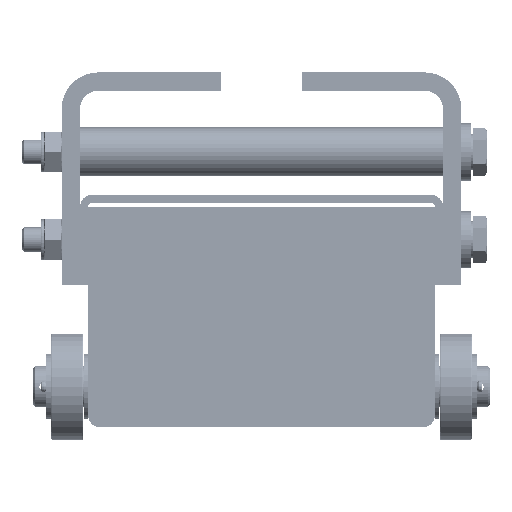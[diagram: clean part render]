
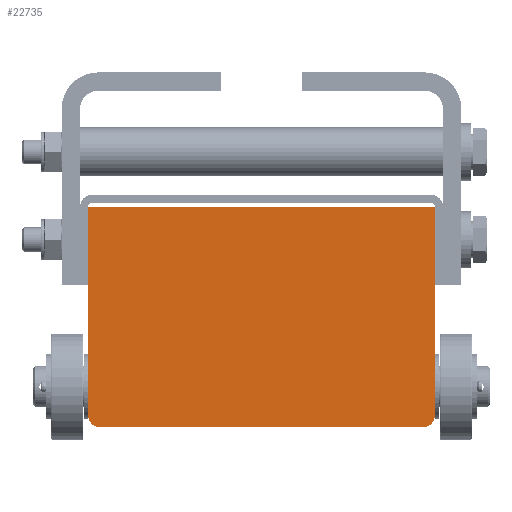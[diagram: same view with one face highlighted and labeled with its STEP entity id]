
A CAD part, front view. The second image highlights one B-rep face of the part: STEP entity #22735.
In plain terms, the highlighted planar face has unit normal (0, -1, 0).
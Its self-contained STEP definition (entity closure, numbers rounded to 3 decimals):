
#3244=PLANE('',#24520);
#3894=FACE_OUTER_BOUND('',#5341,.T.);
#5341=EDGE_LOOP('',(#16047,#16048,#16049,#16050,#16051,#16052));
#7051=LINE('',#34649,#8303);
#7055=LINE('',#34656,#8307);
#7056=LINE('',#34659,#8308);
#7059=LINE('',#34667,#8311);
#8303=VECTOR('',#27573,10.);
#8307=VECTOR('',#27581,10.);
#8308=VECTOR('',#27584,10.);
#8311=VECTOR('',#27593,10.);
#9569=CIRCLE('',#24516,3.);
#9570=CIRCLE('',#24519,3.);
#10688=VERTEX_POINT('',#34647);
#10689=VERTEX_POINT('',#34648);
#10690=VERTEX_POINT('',#34654);
#10691=VERTEX_POINT('',#34658);
#10692=VERTEX_POINT('',#34662);
#10693=VERTEX_POINT('',#34666);
#12778=EDGE_CURVE('',#10688,#10689,#7051,.T.);
#12782=EDGE_CURVE('',#10690,#10689,#7055,.T.);
#12783=EDGE_CURVE('',#10691,#10690,#7056,.T.);
#12785=EDGE_CURVE('',#10692,#10691,#9569,.T.);
#12787=EDGE_CURVE('',#10692,#10693,#7059,.T.);
#12789=EDGE_CURVE('',#10688,#10693,#9570,.T.);
#16047=ORIENTED_EDGE('',*,*,#12782,.F.);
#16048=ORIENTED_EDGE('',*,*,#12783,.F.);
#16049=ORIENTED_EDGE('',*,*,#12785,.F.);
#16050=ORIENTED_EDGE('',*,*,#12787,.T.);
#16051=ORIENTED_EDGE('',*,*,#12789,.F.);
#16052=ORIENTED_EDGE('',*,*,#12778,.T.);
#22735=ADVANCED_FACE('',(#3894),#3244,.F.);
#24516=AXIS2_PLACEMENT_3D('',#34663,#27588,#27589);
#24519=AXIS2_PLACEMENT_3D('',#34670,#27597,#27598);
#24520=AXIS2_PLACEMENT_3D('',#34671,#27599,#27600);
#27573=DIRECTION('',(0.,0.,1.));
#27581=DIRECTION('',(1.,0.,0.));
#27584=DIRECTION('',(0.,0.,1.));
#27588=DIRECTION('center_axis',(0.,1.,0.));
#27589=DIRECTION('ref_axis',(0.,0.,-1.));
#27593=DIRECTION('',(1.,0.,0.));
#27597=DIRECTION('center_axis',(0.,1.,0.));
#27598=DIRECTION('ref_axis',(1.,0.,0.));
#27599=DIRECTION('center_axis',(0.,1.,0.));
#27600=DIRECTION('ref_axis',(1.,0.,0.));
#34647=CARTESIAN_POINT('',(42.5,0.,3.));
#34648=CARTESIAN_POINT('',(42.5,0.,54.));
#34649=CARTESIAN_POINT('',(42.5,0.,3.));
#34654=CARTESIAN_POINT('',(-42.5,0.,54.));
#34656=CARTESIAN_POINT('',(-42.5,0.,54.));
#34658=CARTESIAN_POINT('',(-42.5,0.,3.));
#34659=CARTESIAN_POINT('',(-42.5,0.,3.));
#34662=CARTESIAN_POINT('',(-39.5,0.,0.));
#34663=CARTESIAN_POINT('Origin',(-39.5,0.,3.));
#34666=CARTESIAN_POINT('',(39.5,0.,0.));
#34667=CARTESIAN_POINT('',(0.,0.,0.));
#34670=CARTESIAN_POINT('Origin',(39.5,0.,3.));
#34671=CARTESIAN_POINT('Origin',(0.,0.,27.));
